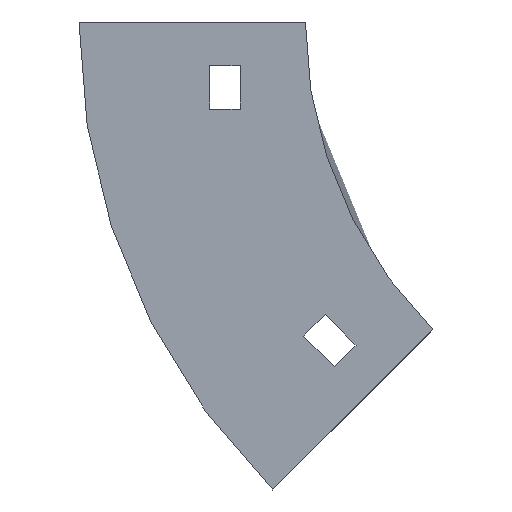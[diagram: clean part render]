
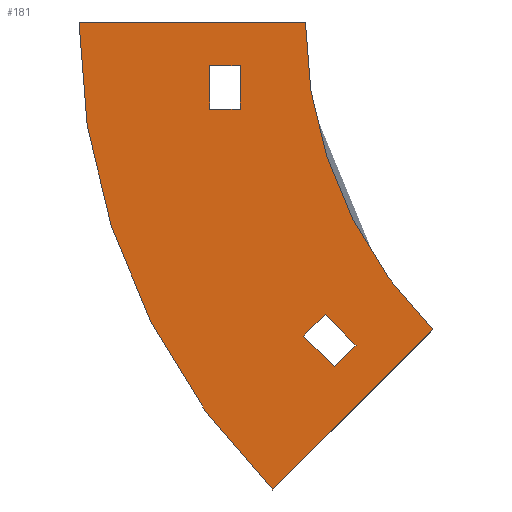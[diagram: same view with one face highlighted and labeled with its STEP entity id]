
A CAD part, left-side view. The second image highlights one B-rep face of the part: STEP entity #181.
In plain terms, the highlighted planar face has unit normal (-1, 0, 0).
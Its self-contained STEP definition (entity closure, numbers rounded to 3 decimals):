
#13 = CARTESIAN_POINT ( 'NONE',  ( -202., 0., 0. ) ) ;
#28 = CARTESIAN_POINT ( 'NONE',  ( -202., 7.48, -107.48 ) ) ;
#29 = EDGE_CURVE ( 'NONE', #1108, #603, #1069, .T. ) ;
#52 = VERTEX_POINT ( 'NONE', #780 ) ;
#62 = PLANE ( 'NONE',  #259 ) ;
#107 = CARTESIAN_POINT ( 'NONE',  ( -202., 0.409, -72.125 ) ) ;
#130 = DIRECTION ( 'NONE',  ( 1., 0., 0. ) ) ;
#131 = VERTEX_POINT ( 'NONE', #747 ) ;
#141 = DIRECTION ( 'NONE',  ( -1., 0., 0. ) ) ;
#167 = VERTEX_POINT ( 'NONE', #310 ) ;
#175 = LINE ( 'NONE', #527, #663 ) ;
#181 = ADVANCED_FACE ( 'NONE', ( #772, #927, #583 ), #62, .T. ) ;
#186 = CARTESIAN_POINT ( 'NONE',  ( -202., -100., 0. ) ) ;
#188 = LINE ( 'NONE', #1083, #489 ) ;
#218 = CARTESIAN_POINT ( 'NONE',  ( -202., -100., 0. ) ) ;
#234 = ORIENTED_EDGE ( 'NONE', *, *, #987, .F. ) ;
#235 = LINE ( 'NONE', #507, #538 ) ;
#259 = AXIS2_PLACEMENT_3D ( 'NONE', #218, #141, #691 ) ;
#276 = DIRECTION ( 'NONE',  ( 0., -1., 0. ) ) ;
#298 = CARTESIAN_POINT ( 'NONE',  ( -202., -6.662, -79.196 ) ) ;
#304 = DIRECTION ( 'NONE',  ( 0., 0., 1. ) ) ;
#307 = DIRECTION ( 'NONE',  ( 0., 0., 1. ) ) ;
#310 = CARTESIAN_POINT ( 'NONE',  ( -202., -4.541, -67.175 ) ) ;
#346 = LINE ( 'NONE', #440, #1099 ) ;
#363 = CARTESIAN_POINT ( 'NONE',  ( -202., 52., 0. ) ) ;
#367 = VECTOR ( 'NONE', #369, 1000. ) ;
#369 = DIRECTION ( 'NONE',  ( 0., -0.707, -0.707 ) ) ;
#378 = ORIENTED_EDGE ( 'NONE', *, *, #1134, .F. ) ;
#392 = VECTOR ( 'NONE', #1036, 1000. ) ;
#406 = CARTESIAN_POINT ( 'NONE',  ( -202., -29.289, -70.711 ) ) ;
#425 = EDGE_CURVE ( 'NONE', #637, #432, #570, .T. ) ;
#427 = ORIENTED_EDGE ( 'NONE', *, *, #439, .T. ) ;
#432 = VERTEX_POINT ( 'NONE', #918 ) ;
#437 = EDGE_CURVE ( 'NONE', #131, #52, #188, .T. ) ;
#439 = EDGE_CURVE ( 'NONE', #657, #131, #464, .T. ) ;
#440 = CARTESIAN_POINT ( 'NONE',  ( -202., 52., 0. ) ) ;
#460 = LINE ( 'NONE', #607, #753 ) ;
#464 = LINE ( 'NONE', #482, #587 ) ;
#482 = CARTESIAN_POINT ( 'NONE',  ( -202., 22., -20. ) ) ;
#489 = VECTOR ( 'NONE', #304, 1000. ) ;
#507 = CARTESIAN_POINT ( 'NONE',  ( -202., 22., -10. ) ) ;
#513 = CARTESIAN_POINT ( 'NONE',  ( -202., -29.289, -70.711 ) ) ;
#520 = ORIENTED_EDGE ( 'NONE', *, *, #866, .T. ) ;
#527 = CARTESIAN_POINT ( 'NONE',  ( -202., 0.409, -72.125 ) ) ;
#532 = DIRECTION ( 'NONE',  ( 0., 0.707, -0.707 ) ) ;
#538 = VECTOR ( 'NONE', #860, 1000. ) ;
#550 = DIRECTION ( 'NONE',  ( 0., 0., 1. ) ) ;
#570 = LINE ( 'NONE', #730, #999 ) ;
#575 = EDGE_CURVE ( 'NONE', #590, #637, #1087, .T. ) ;
#583 = FACE_BOUND ( 'NONE', #1026, .T. ) ;
#587 = VECTOR ( 'NONE', #995, 1000. ) ;
#590 = VERTEX_POINT ( 'NONE', #107 ) ;
#592 = ORIENTED_EDGE ( 'NONE', *, *, #29, .F. ) ;
#603 = VERTEX_POINT ( 'NONE', #28 ) ;
#607 = CARTESIAN_POINT ( 'NONE',  ( -202., -11.612, -74.246 ) ) ;
#614 = ORIENTED_EDGE ( 'NONE', *, *, #758, .F. ) ;
#622 = AXIS2_PLACEMENT_3D ( 'NONE', #832, #984, #550 ) ;
#632 = EDGE_CURVE ( 'NONE', #776, #1108, #943, .T. ) ;
#637 = VERTEX_POINT ( 'NONE', #817 ) ;
#647 = ORIENTED_EDGE ( 'NONE', *, *, #868, .T. ) ;
#657 = VERTEX_POINT ( 'NONE', #733 ) ;
#663 = VECTOR ( 'NONE', #532, 1000. ) ;
#667 = EDGE_LOOP ( 'NONE', ( #647, #520, #427, #789 ) ) ;
#686 = VECTOR ( 'NONE', #972, 1000. ) ;
#691 = DIRECTION ( 'NONE',  ( 0., 0., 1. ) ) ;
#730 = CARTESIAN_POINT ( 'NONE',  ( -202., -6.662, -79.196 ) ) ;
#733 = CARTESIAN_POINT ( 'NONE',  ( -202., 15., -20. ) ) ;
#747 = CARTESIAN_POINT ( 'NONE',  ( -202., 22., -20. ) ) ;
#753 = VECTOR ( 'NONE', #1077, 1000. ) ;
#758 = EDGE_CURVE ( 'NONE', #603, #781, #1022, .T. ) ;
#772 = FACE_BOUND ( 'NONE', #667, .T. ) ;
#776 = VERTEX_POINT ( 'NONE', #13 ) ;
#780 = CARTESIAN_POINT ( 'NONE',  ( -202., 22., -10. ) ) ;
#781 = VERTEX_POINT ( 'NONE', #363 ) ;
#787 = ORIENTED_EDGE ( 'NONE', *, *, #632, .F. ) ;
#789 = ORIENTED_EDGE ( 'NONE', *, *, #437, .T. ) ;
#817 = CARTESIAN_POINT ( 'NONE',  ( -202., -6.662, -79.196 ) ) ;
#832 = CARTESIAN_POINT ( 'NONE',  ( -202., -100., 0. ) ) ;
#847 = CARTESIAN_POINT ( 'NONE',  ( -202., 15., -10. ) ) ;
#860 = DIRECTION ( 'NONE',  ( 0., -1., 0. ) ) ;
#866 = EDGE_CURVE ( 'NONE', #1013, #657, #1124, .T. ) ;
#868 = EDGE_CURVE ( 'NONE', #52, #1013, #235, .T. ) ;
#895 = ORIENTED_EDGE ( 'NONE', *, *, #425, .F. ) ;
#918 = CARTESIAN_POINT ( 'NONE',  ( -202., -11.612, -74.246 ) ) ;
#927 = FACE_OUTER_BOUND ( 'NONE', #1028, .T. ) ;
#943 = CIRCLE ( 'NONE', #622, 100. ) ;
#951 = EDGE_CURVE ( 'NONE', #167, #590, #175, .T. ) ;
#972 = DIRECTION ( 'NONE',  ( 0., 0.707, -0.707 ) ) ;
#984 = DIRECTION ( 'NONE',  ( -1., 0., 0. ) ) ;
#987 = EDGE_CURVE ( 'NONE', #781, #776, #346, .T. ) ;
#995 = DIRECTION ( 'NONE',  ( 0., 1., 0. ) ) ;
#999 = VECTOR ( 'NONE', #1086, 1000. ) ;
#1013 = VERTEX_POINT ( 'NONE', #1067 ) ;
#1022 = CIRCLE ( 'NONE', #1138, 152. ) ;
#1026 = EDGE_LOOP ( 'NONE', ( #378, #895, #1033, #1104 ) ) ;
#1028 = EDGE_LOOP ( 'NONE', ( #787, #234, #614, #592 ) ) ;
#1033 = ORIENTED_EDGE ( 'NONE', *, *, #575, .F. ) ;
#1036 = DIRECTION ( 'NONE',  ( 0., 0., -1. ) ) ;
#1067 = CARTESIAN_POINT ( 'NONE',  ( -202., 15., -10. ) ) ;
#1069 = LINE ( 'NONE', #513, #686 ) ;
#1077 = DIRECTION ( 'NONE',  ( 0., 0.707, 0.707 ) ) ;
#1083 = CARTESIAN_POINT ( 'NONE',  ( -202., 22., -10. ) ) ;
#1086 = DIRECTION ( 'NONE',  ( 0., -0.707, 0.707 ) ) ;
#1087 = LINE ( 'NONE', #298, #367 ) ;
#1099 = VECTOR ( 'NONE', #276, 1000. ) ;
#1104 = ORIENTED_EDGE ( 'NONE', *, *, #951, .F. ) ;
#1108 = VERTEX_POINT ( 'NONE', #406 ) ;
#1124 = LINE ( 'NONE', #847, #392 ) ;
#1134 = EDGE_CURVE ( 'NONE', #432, #167, #460, .T. ) ;
#1138 = AXIS2_PLACEMENT_3D ( 'NONE', #186, #130, #307 ) ;
